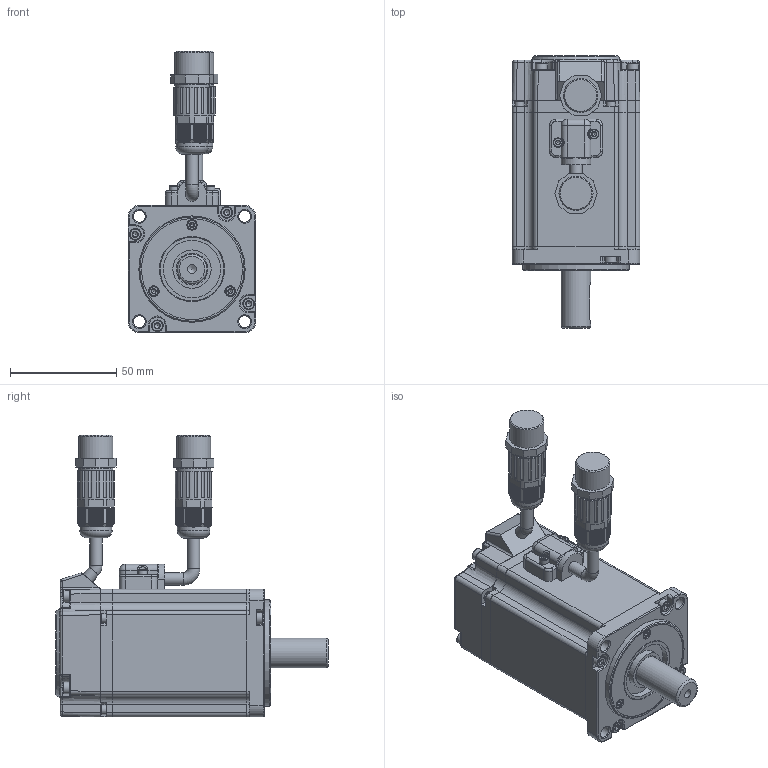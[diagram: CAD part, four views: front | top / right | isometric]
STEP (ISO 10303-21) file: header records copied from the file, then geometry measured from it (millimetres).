
FILE_DESCRIPTION(/* description */ (''),/* implementation_level */ '2;1');
FILE_NAME(/* name */ '60SY-M01330LCMS1.stp',/* time_stamp */ '2024-01-04T11:01:27+08:00',/* author */ (''),/* organization */ (''),/* preprocessor_version */ 'ST-DEVELOPER v18.1',/* originating_system */ 'SIEMENS PLM Software NX 2000',/* authorisation */ '');
FILE_SCHEMA (('AUTOMOTIVE_DESIGN { 1 0 10303 214 3 1 1 1 }'));
Products named in the file (1): 60SY-M00630S1
Bounding box: 60 x 128 x 132.49 mm (x, y, z)
Volume: 344506.7 mm3; surface area: 74430.1 mm2
Topology: 29 solids, 34 shells, 2150 faces, 5422 edges, 3365 vertices
Faces by surface type: plane 1433, cylinder 291, cone 157, sphere 144, torus 81, bspline 44
Full cylindrical faces by diameter (mm): 2.05 x3, 2.38 x9, 2.5 x6, 2.6 x4, 2.874 x8, 2.9 x3, 3.4 x4, 3.479 x4, 3.5 x4, 4.2 x1, 4.5 x9, 5 x3, 5.5 x12, 5.8 x5, 6 x1, 13 x2, 14 x1, 14.8 x1, 15 x1, 15.3 x2, 15.6 x2, 16 x2, 16.1 x2, 17.3 x2, 18 x1, 22.5 x1, 27 x1, 30 x2, 47.5 x2, 50 x1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
Entity records: 64099 total; most frequent: CARTESIAN_POINT 15830, ORIENTED_EDGE 10306, DIRECTION 9019, EDGE_CURVE 5153, VERTEX_POINT 3316, AXIS2_PLACEMENT_3D 3167, LINE 2685, VECTOR 2685
